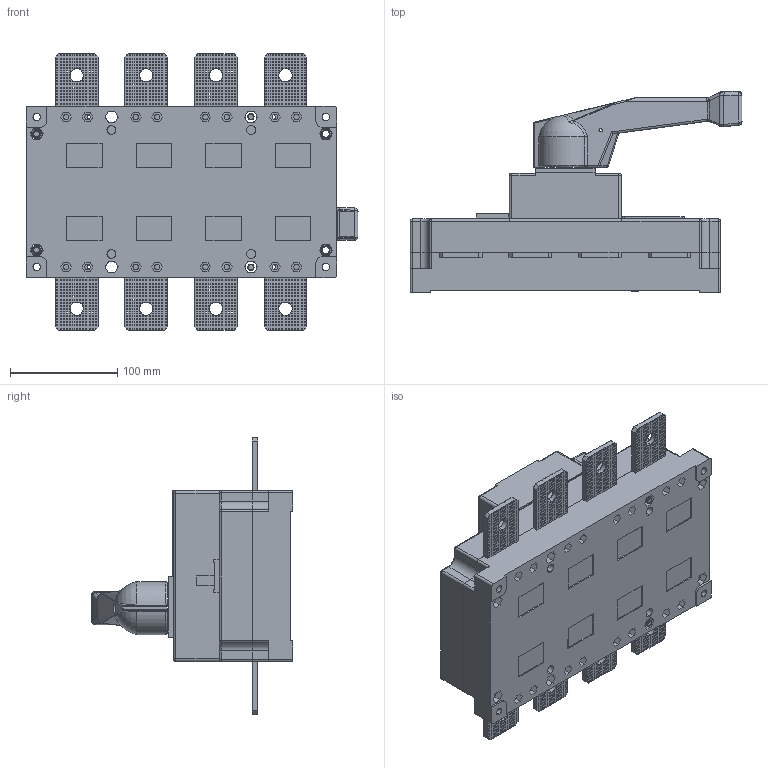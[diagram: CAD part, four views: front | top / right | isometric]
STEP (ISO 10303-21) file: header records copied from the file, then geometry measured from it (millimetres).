
FILE_DESCRIPTION (( 'STEP AP214' ), '1' );
FILE_NAME ('HGL-630-4总装图.STEP', '2022-08-11T07:22:48', ( '微软用户' ), ( '微软中国' ), 'SwSTEP 2.0', 'SolidWorks 2019', '' );
FILE_SCHEMA (( 'AUTOMOTIVE_DESIGN' ));
Length unit declared in the file: millimetre
Products named in the file (1): HGL-630-4軞蚾芞
Bounding box: 310 x 187.8 x 258 mm (x, y, z)
Surface area: 314488.7 mm2 (no closed solid volume)
Topology: 0 solids, 1750 shells, 3874 faces, 26896 edges, 24589 vertices
Faces by surface type: plane 3443, cylinder 349, bspline 41, torus 25, sphere 16
Entity records: 306660 total; most frequent: CARTESIAN_POINT 67144, DIRECTION 34744, ORIENTED_EDGE 30410, EDGE_CURVE 26888, VECTOR 25490, LINE 25490, VERTEX_POINT 24589, EDGE_LOOP 7045
